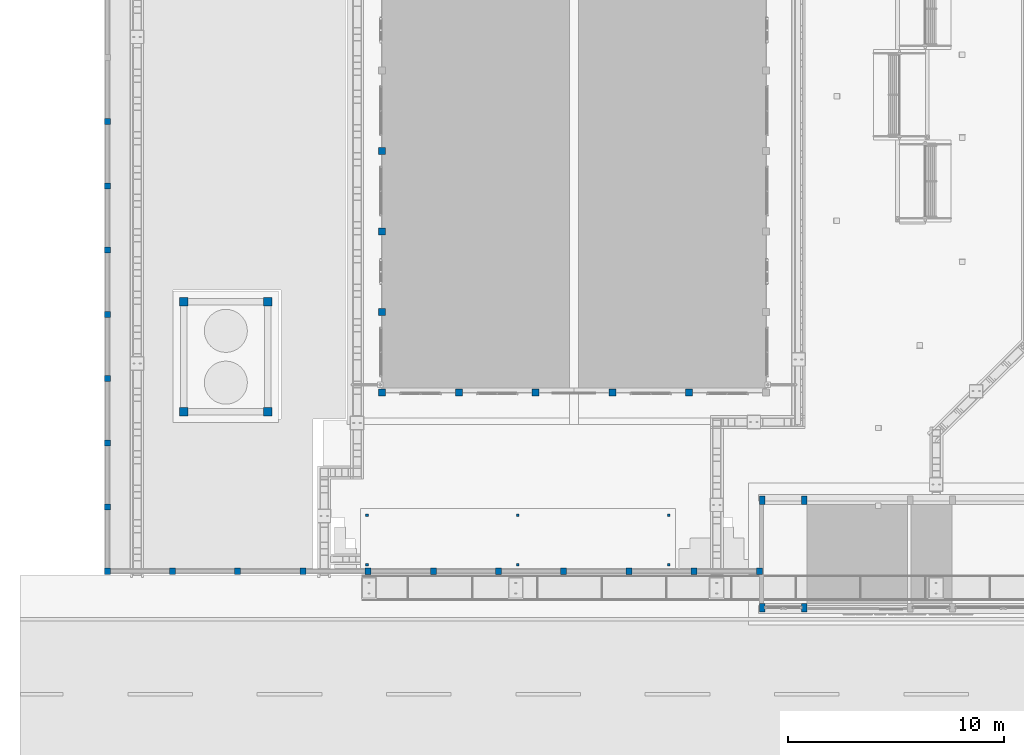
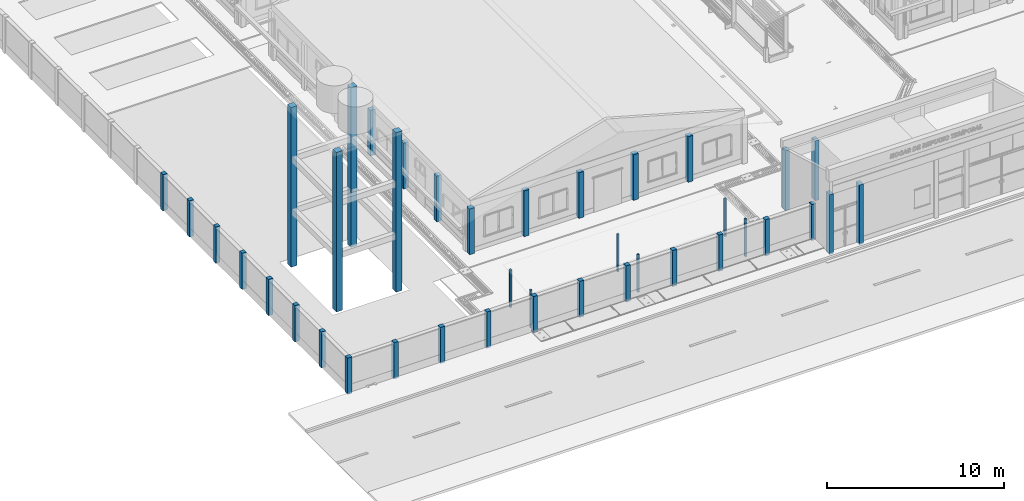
# One storey, part 1 of 151: 42 columns.
"""IFC2X3 building model written with IfcOpenShell, lengths in metres."""

from ifc_helpers import new_model, si_unit, origin, origin_with_axes, place, context, subcontext, project, spatial, faceted_brep, element, save


model = new_model("IFC2X3")

# Units and contexts
model_context = context("Model", 3, precision=1e-05, world=origin_with_axes())
body_context = subcontext(model_context, "Body", "Model", "MODEL_VIEW")
ifc_project = project(units=[si_unit("LENGTHUNIT", "METRE"), si_unit("AREAUNIT", "SQUARE_METRE"), si_unit("VOLUMEUNIT", "CUBIC_METRE"), si_unit("PLANEANGLEUNIT", "RADIAN")], contexts=[model_context])

# Site, building, storey
site_placement = place(None, origin_with_axes())
site = spatial("IfcSite", under=ifc_project, at=site_placement, Name="Predio Los Mangos - Morales, San Martín", CompositionType="ELEMENT")
building_placement = place(site_placement, origin())
building = spatial("IfcBuilding", under=site, at=building_placement, Name="Hogar de Refugio Temporal", CompositionType="ELEMENT")
storey_placement = place(building_placement, origin())
storey = spatial("IfcBuildingStorey", under=building, at=storey_placement, Name="NIVEL 1 (NPT +0.00)", CompositionType="ELEMENT", Elevation=0.0)

# Columns
column_1_placement = place(storey_placement, origin())
element("IfcColumn", 1, at=column_1_placement, inside=storey, Name="E-01_col", ObjectType="Columna", context=body_context, shape_type="Brep", body=[
    faceted_brep([(13.64, 26.14, 0.15), (13.64, 26.46, 0.15), (13.96, 26.46, 0.15), (13.96, 26.14, 0.15), (13.64, 26.14, 3.3), (13.96, 26.14, 3.3), (13.96, 26.46, 3.3), (13.64, 26.46, 3.3)], [[[0, 1, 2, 3]], [[4, 5, 6, 7]], [[0, 3, 5, 4]], [[3, 2, 6, 5]], [[2, 1, 7, 6]], [[1, 0, 4, 7]]]),
])
column_2_placement = place(storey_placement, origin())
element("IfcColumn", 2, at=column_2_placement, inside=storey, Name="E-01_col", ObjectType="Columna", context=body_context, shape_type="Brep", body=[
    faceted_brep([(17.2, 26.14, 0.15), (17.2, 26.46, 0.15), (17.52, 26.46, 0.15), (17.52, 26.14, 0.15), (17.2, 26.14, 3.3), (17.52, 26.14, 3.3), (17.52, 26.46, 3.3), (17.2, 26.46, 3.3)], [[[0, 1, 2, 3]], [[4, 5, 6, 7]], [[0, 3, 5, 4]], [[3, 2, 6, 5]], [[2, 1, 7, 6]], [[1, 0, 4, 7]]]),
])
column_3_placement = place(storey_placement, origin())
element("IfcColumn", 3, at=column_3_placement, inside=storey, Name="E-01_col", ObjectType="Columna", context=body_context, shape_type="Brep", body=[
    faceted_brep([(20.76, 26.14, 0.15), (20.76, 26.46, 0.15), (21.08, 26.46, 0.15), (21.08, 26.14, 0.15), (20.76, 26.14, 3.3), (21.08, 26.14, 3.3), (21.08, 26.46, 3.3), (20.76, 26.46, 3.3)], [[[0, 1, 2, 3]], [[4, 5, 6, 7]], [[0, 3, 5, 4]], [[3, 2, 6, 5]], [[2, 1, 7, 6]], [[1, 0, 4, 7]]]),
])
column_4_placement = place(storey_placement, origin())
element("IfcColumn", 4, at=column_4_placement, inside=storey, Name="E-01_col", ObjectType="Columna", context=body_context, shape_type="Brep", body=[
    faceted_brep([(24.32, 26.14, 0.15), (24.32, 26.46, 0.15), (24.64, 26.46, 0.15), (24.64, 26.14, 0.15), (24.32, 26.14, 3.3), (24.64, 26.14, 3.3), (24.64, 26.46, 3.3), (24.32, 26.46, 3.3)], [[[0, 1, 2, 3]], [[4, 5, 6, 7]], [[0, 3, 5, 4]], [[3, 2, 6, 5]], [[2, 1, 7, 6]], [[1, 0, 4, 7]]]),
])
column_5_placement = place(storey_placement, origin())
element("IfcColumn", 5, at=column_5_placement, inside=storey, Name="E-01_col", ObjectType="Columna", context=body_context, shape_type="Brep", body=[
    faceted_brep([(27.88, 26.14, 0.15), (27.88, 26.46, 0.15), (28.2, 26.46, 0.15), (28.2, 26.14, 0.15), (27.88, 26.14, 3.3), (28.2, 26.14, 3.3), (28.2, 26.46, 3.3), (27.88, 26.46, 3.3)], [[[0, 1, 2, 3]], [[4, 5, 6, 7]], [[0, 3, 5, 4]], [[3, 2, 6, 5]], [[2, 1, 7, 6]], [[1, 0, 4, 7]]]),
])
column_6_placement = place(storey_placement, origin())
element("IfcColumn", 6, at=column_6_placement, inside=storey, Name="E-01_col", ObjectType="Columna", context=body_context, shape_type="Brep", body=[
    faceted_brep([(13.64, 26.14, 0.15), (13.64, 26.46, 0.15), (13.96, 26.46, 0.15), (13.96, 26.14, 0.15), (13.64, 26.14, 3.3), (13.96, 26.14, 3.3), (13.96, 26.46, 3.3), (13.64, 26.46, 3.3)], [[[0, 1, 2, 3]], [[4, 5, 6, 7]], [[0, 3, 5, 4]], [[3, 2, 6, 5]], [[2, 1, 7, 6]], [[1, 0, 4, 7]]]),
])
column_7_placement = place(storey_placement, origin())
element("IfcColumn", 7, at=column_7_placement, inside=storey, Name="E-01_col", ObjectType="Columna", context=body_context, shape_type="Brep", body=[
    faceted_brep([(13.64, 29.8733, 0.15), (13.64, 30.1933, 0.15), (13.96, 30.1933, 0.15), (13.96, 29.8733, 0.15), (13.64, 29.8733, 3.3), (13.96, 29.8733, 3.3), (13.96, 30.1933, 3.3), (13.64, 30.1933, 3.3)], [[[0, 1, 2, 3]], [[4, 5, 6, 7]], [[0, 3, 5, 4]], [[3, 2, 6, 5]], [[2, 1, 7, 6]], [[1, 0, 4, 7]]]),
])
column_8_placement = place(storey_placement, origin())
element("IfcColumn", 8, at=column_8_placement, inside=storey, Name="E-01_col", ObjectType="Columna", context=body_context, shape_type="Brep", body=[
    faceted_brep([(13.64, 33.6067, 0.15), (13.64, 33.9267, 0.15), (13.96, 33.9267, 0.15), (13.96, 33.6067, 0.15), (13.64, 33.6067, 3.3), (13.96, 33.6067, 3.3), (13.96, 33.9267, 3.3), (13.64, 33.9267, 3.3)], [[[0, 1, 2, 3]], [[4, 5, 6, 7]], [[0, 3, 5, 4]], [[3, 2, 6, 5]], [[2, 1, 7, 6]], [[1, 0, 4, 7]]]),
])
column_9_placement = place(storey_placement, origin())
element("IfcColumn", 9, at=column_9_placement, inside=storey, Name="E-01_col", ObjectType="Columna", context=body_context, shape_type="Brep", body=[
    faceted_brep([(13.64, 37.34, 0.15), (13.64, 37.66, 0.15), (13.96, 37.66, 0.15), (13.96, 37.34, 0.15), (13.64, 37.34, 3.3), (13.96, 37.34, 3.3), (13.96, 37.66, 3.3), (13.64, 37.66, 3.3)], [[[0, 1, 2, 3]], [[4, 5, 6, 7]], [[0, 3, 5, 4]], [[3, 2, 6, 5]], [[2, 1, 7, 6]], [[1, 0, 4, 7]]]),
])
column_10_placement = place(storey_placement, origin())
element("IfcColumn", 10, at=column_10_placement, inside=storey, Name="oe01_col", ObjectType="Columna", context=body_context, shape_type="Brep", body=[
    faceted_brep([(31.3105, 16.1, 0.05), (31.3105, 16.5, 0.05), (31.5705, 16.5, 0.05), (31.5705, 16.1, 0.05), (31.3105, 16.1, 4.18), (31.5705, 16.1, 4.18), (31.5705, 16.5, 4.18), (31.3105, 16.5, 4.18)], [[[0, 1, 2, 3]], [[4, 5, 6, 7]], [[0, 3, 5, 4]], [[3, 2, 6, 5]], [[2, 1, 7, 6]], [[1, 0, 4, 7]]]),
])
column_11_placement = place(storey_placement, origin())
element("IfcColumn", 11, at=column_11_placement, inside=storey, Name="oe01_col_post", ObjectType="Columna", context=body_context, shape_type="Brep", body=[
    faceted_brep([(31.3105, 21.1, 0.05), (31.3105, 21.5, 0.05), (31.5705, 21.5, 0.05), (31.5705, 21.1, 0.05), (31.3105, 21.1, 4.18), (31.5705, 21.1, 4.18), (31.5705, 21.5, 4.18), (31.3105, 21.5, 4.18)], [[[0, 1, 2, 3]], [[4, 5, 6, 7]], [[0, 3, 5, 4]], [[3, 2, 6, 5]], [[2, 1, 7, 6]], [[1, 0, 4, 7]]]),
])
column_12_placement = place(storey_placement, origin())
element("IfcColumn", 12, at=column_12_placement, inside=storey, Name="oe01_col", ObjectType="Columna", context=body_context, shape_type="Brep", body=[
    faceted_brep([(33.2576, 16.1, 0.05), (33.2576, 16.5, 0.05), (33.5176, 16.5, 0.05), (33.5176, 16.1, 0.05), (33.2576, 16.1, 4.18), (33.5176, 16.1, 4.18), (33.5176, 16.5, 4.18), (33.2576, 16.5, 4.18)], [[[0, 1, 2, 3]], [[4, 5, 6, 7]], [[0, 3, 5, 4]], [[3, 2, 6, 5]], [[2, 1, 7, 6]], [[1, 0, 4, 7]]]),
])
column_13_placement = place(storey_placement, origin())
element("IfcColumn", 13, at=column_13_placement, inside=storey, Name="oe01_col_post", ObjectType="Columna", context=body_context, shape_type="Brep", body=[
    faceted_brep([(33.2576, 21.1, 0.05), (33.2576, 21.5, 0.05), (33.5176, 21.5, 0.05), (33.5176, 21.1, 0.05), (33.2576, 21.1, 4.18), (33.5176, 21.1, 4.18), (33.5176, 21.5, 4.18), (33.2576, 21.5, 4.18)], [[[0, 1, 2, 3]], [[4, 5, 6, 7]], [[0, 3, 5, 4]], [[3, 2, 6, 5]], [[2, 1, 7, 6]], [[1, 0, 4, 7]]]),
])
column_14_placement = place(storey_placement, origin())
element("IfcColumn", 14, at=column_14_placement, inside=storey, Name="poste_motos", ObjectType="Columna", context=body_context, shape_type="Brep", body=[
    faceted_brep([(13.04, 18.24, 0.1), (13.04, 18.36, 0.1), (13.16, 18.36, 0.1), (13.16, 18.24, 0.1), (13.04, 18.24, 2.7), (13.16, 18.24, 2.7), (13.16, 18.36, 2.7), (13.04, 18.36, 2.7)], [[[0, 1, 2, 3]], [[4, 5, 6, 7]], [[0, 3, 5, 4]], [[3, 2, 6, 5]], [[2, 1, 7, 6]], [[1, 0, 4, 7]]]),
])
column_15_placement = place(storey_placement, origin())
element("IfcColumn", 15, at=column_15_placement, inside=storey, Name="poste_motos", ObjectType="Columna", context=body_context, shape_type="Brep", body=[
    faceted_brep([(13.04, 20.54, 0.1), (13.04, 20.66, 0.1), (13.16, 20.66, 0.1), (13.16, 20.54, 0.1), (13.04, 20.54, 2.7), (13.16, 20.54, 2.7), (13.16, 20.66, 2.7), (13.04, 20.66, 2.7)], [[[0, 1, 2, 3]], [[4, 5, 6, 7]], [[0, 3, 5, 4]], [[3, 2, 6, 5]], [[2, 1, 7, 6]], [[1, 0, 4, 7]]]),
])
column_16_placement = place(storey_placement, origin())
element("IfcColumn", 16, at=column_16_placement, inside=storey, Name="poste_motos", ObjectType="Columna", context=body_context, shape_type="Brep", body=[
    faceted_brep([(20.04, 18.24, 0.1), (20.04, 18.36, 0.1), (20.16, 18.36, 0.1), (20.16, 18.24, 0.1), (20.04, 18.24, 2.7), (20.16, 18.24, 2.7), (20.16, 18.36, 2.7), (20.04, 18.36, 2.7)], [[[0, 1, 2, 3]], [[4, 5, 6, 7]], [[0, 3, 5, 4]], [[3, 2, 6, 5]], [[2, 1, 7, 6]], [[1, 0, 4, 7]]]),
])
column_17_placement = place(storey_placement, origin())
element("IfcColumn", 17, at=column_17_placement, inside=storey, Name="poste_motos", ObjectType="Columna", context=body_context, shape_type="Brep", body=[
    faceted_brep([(20.04, 20.54, 0.1), (20.04, 20.66, 0.1), (20.16, 20.66, 0.1), (20.16, 20.54, 0.1), (20.04, 20.54, 2.7), (20.16, 20.54, 2.7), (20.16, 20.66, 2.7), (20.04, 20.66, 2.7)], [[[0, 1, 2, 3]], [[4, 5, 6, 7]], [[0, 3, 5, 4]], [[3, 2, 6, 5]], [[2, 1, 7, 6]], [[1, 0, 4, 7]]]),
])
column_18_placement = place(storey_placement, origin())
element("IfcColumn", 18, at=column_18_placement, inside=storey, Name="poste_motos", ObjectType="Columna", context=body_context, shape_type="Brep", body=[
    faceted_brep([(27.04, 18.24, 0.1), (27.04, 18.36, 0.1), (27.16, 18.36, 0.1), (27.16, 18.24, 0.1), (27.04, 18.24, 2.7), (27.16, 18.24, 2.7), (27.16, 18.36, 2.7), (27.04, 18.36, 2.7)], [[[0, 1, 2, 3]], [[4, 5, 6, 7]], [[0, 3, 5, 4]], [[3, 2, 6, 5]], [[2, 1, 7, 6]], [[1, 0, 4, 7]]]),
])
column_19_placement = place(storey_placement, origin())
element("IfcColumn", 19, at=column_19_placement, inside=storey, Name="poste_motos", ObjectType="Columna", context=body_context, shape_type="Brep", body=[
    faceted_brep([(27.04, 20.54, 0.1), (27.04, 20.66, 0.1), (27.16, 20.66, 0.1), (27.16, 20.54, 0.1), (27.04, 20.54, 2.7), (27.16, 20.54, 2.7), (27.16, 20.66, 2.7), (27.04, 20.66, 2.7)], [[[0, 1, 2, 3]], [[4, 5, 6, 7]], [[0, 3, 5, 4]], [[3, 2, 6, 5]], [[2, 1, 7, 6]], [[1, 0, 4, 7]]]),
])
column_20_placement = place(storey_placement, origin())
element("IfcColumn", 20, at=column_20_placement, inside=storey, Name="tanque_col", ObjectType="Columna", context=body_context, shape_type="Brep", body=[
    faceted_brep([(4.4, 25.2, 0.0), (4.4, 25.6, 0.0), (4.8, 25.6, 0.0), (4.8, 25.2, 0.0), (4.4, 25.2, 11.0), (4.8, 25.2, 11.0), (4.8, 25.6, 11.0), (4.4, 25.6, 11.0)], [[[0, 1, 2, 3]], [[4, 5, 6, 7]], [[0, 3, 5, 4]], [[3, 2, 6, 5]], [[2, 1, 7, 6]], [[1, 0, 4, 7]]]),
])
column_21_placement = place(storey_placement, origin())
element("IfcColumn", 21, at=column_21_placement, inside=storey, Name="tanque_col", ObjectType="Columna", context=body_context, shape_type="Brep", body=[
    faceted_brep([(4.4, 30.3, 0.0), (4.4, 30.7, 0.0), (4.8, 30.7, 0.0), (4.8, 30.3, 0.0), (4.4, 30.3, 11.0), (4.8, 30.3, 11.0), (4.8, 30.7, 11.0), (4.4, 30.7, 11.0)], [[[0, 1, 2, 3]], [[4, 5, 6, 7]], [[0, 3, 5, 4]], [[3, 2, 6, 5]], [[2, 1, 7, 6]], [[1, 0, 4, 7]]]),
])
column_22_placement = place(storey_placement, origin())
element("IfcColumn", 22, at=column_22_placement, inside=storey, Name="tanque_col", ObjectType="Columna", context=body_context, shape_type="Brep", body=[
    faceted_brep([(8.3, 25.2, 0.0), (8.3, 25.6, 0.0), (8.7, 25.6, 0.0), (8.7, 25.2, 0.0), (8.3, 25.2, 11.0), (8.7, 25.2, 11.0), (8.7, 25.6, 11.0), (8.3, 25.6, 11.0)], [[[0, 1, 2, 3]], [[4, 5, 6, 7]], [[0, 3, 5, 4]], [[3, 2, 6, 5]], [[2, 1, 7, 6]], [[1, 0, 4, 7]]]),
])
column_23_placement = place(storey_placement, origin())
element("IfcColumn", 23, at=column_23_placement, inside=storey, Name="tanque_col", ObjectType="Columna", context=body_context, shape_type="Brep", body=[
    faceted_brep([(8.3, 30.3, 0.0), (8.3, 30.7, 0.0), (8.7, 30.7, 0.0), (8.7, 30.3, 0.0), (8.3, 30.3, 11.0), (8.7, 30.3, 11.0), (8.7, 30.7, 11.0), (8.3, 30.7, 11.0)], [[[0, 1, 2, 3]], [[4, 5, 6, 7]], [[0, 3, 5, 4]], [[3, 2, 6, 5]], [[2, 1, 7, 6]], [[1, 0, 4, 7]]]),
])
column_24_placement = place(storey_placement, origin())
element("IfcColumn", 24, at=column_24_placement, inside=storey, Name="columna_cerco", ObjectType="Columna", context=body_context, shape_type="Brep", body=[
    faceted_brep([(0.91, 17.86, 0.0), (0.91, 18.14, 0.0), (1.19, 18.14, 0.0), (1.19, 17.86, 0.0), (0.91, 17.86, 2.5), (1.19, 17.86, 2.5), (1.19, 18.14, 2.5), (0.91, 18.14, 2.5)], [[[0, 1, 2, 3]], [[4, 5, 6, 7]], [[0, 3, 5, 4]], [[3, 2, 6, 5]], [[2, 1, 7, 6]], [[1, 0, 4, 7]]]),
])
column_25_placement = place(storey_placement, origin())
element("IfcColumn", 25, at=column_25_placement, inside=storey, Name="columna_cerco", ObjectType="Columna", context=body_context, shape_type="Brep", body=[
    faceted_brep([(3.935, 17.86, 0.0), (3.935, 18.14, 0.0), (4.215, 18.14, 0.0), (4.215, 17.86, 0.0), (3.935, 17.86, 2.5), (4.215, 17.86, 2.5), (4.215, 18.14, 2.5), (3.935, 18.14, 2.5)], [[[0, 1, 2, 3]], [[4, 5, 6, 7]], [[0, 3, 5, 4]], [[3, 2, 6, 5]], [[2, 1, 7, 6]], [[1, 0, 4, 7]]]),
])
column_26_placement = place(storey_placement, origin())
element("IfcColumn", 26, at=column_26_placement, inside=storey, Name="columna_cerco", ObjectType="Columna", context=body_context, shape_type="Brep", body=[
    faceted_brep([(6.96, 17.86, 0.0), (6.96, 18.14, 0.0), (7.24, 18.14, 0.0), (7.24, 17.86, 0.0), (6.96, 17.86, 2.5), (7.24, 17.86, 2.5), (7.24, 18.14, 2.5), (6.96, 18.14, 2.5)], [[[0, 1, 2, 3]], [[4, 5, 6, 7]], [[0, 3, 5, 4]], [[3, 2, 6, 5]], [[2, 1, 7, 6]], [[1, 0, 4, 7]]]),
])
column_27_placement = place(storey_placement, origin())
element("IfcColumn", 27, at=column_27_placement, inside=storey, Name="columna_cerco", ObjectType="Columna", context=body_context, shape_type="Brep", body=[
    faceted_brep([(9.985, 17.86, 0.0), (9.985, 18.14, 0.0), (10.265, 18.14, 0.0), (10.265, 17.86, 0.0), (9.985, 17.86, 2.5), (10.265, 17.86, 2.5), (10.265, 18.14, 2.5), (9.985, 18.14, 2.5)], [[[0, 1, 2, 3]], [[4, 5, 6, 7]], [[0, 3, 5, 4]], [[3, 2, 6, 5]], [[2, 1, 7, 6]], [[1, 0, 4, 7]]]),
])
column_28_placement = place(storey_placement, origin())
element("IfcColumn", 28, at=column_28_placement, inside=storey, Name="columna_cerco", ObjectType="Columna", context=body_context, shape_type="Brep", body=[
    faceted_brep([(13.01, 17.86, 0.0), (13.01, 18.14, 0.0), (13.29, 18.14, 0.0), (13.29, 17.86, 0.0), (13.01, 17.86, 2.5), (13.29, 17.86, 2.5), (13.29, 18.14, 2.5), (13.01, 18.14, 2.5)], [[[0, 1, 2, 3]], [[4, 5, 6, 7]], [[0, 3, 5, 4]], [[3, 2, 6, 5]], [[2, 1, 7, 6]], [[1, 0, 4, 7]]]),
])
column_29_placement = place(storey_placement, origin())
element("IfcColumn", 29, at=column_29_placement, inside=storey, Name="columna_cerco", ObjectType="Columna", context=body_context, shape_type="Brep", body=[
    faceted_brep([(16.035, 17.86, 0.0), (16.035, 18.14, 0.0), (16.315, 18.14, 0.0), (16.315, 17.86, 0.0), (16.035, 17.86, 2.5), (16.315, 17.86, 2.5), (16.315, 18.14, 2.5), (16.035, 18.14, 2.5)], [[[0, 1, 2, 3]], [[4, 5, 6, 7]], [[0, 3, 5, 4]], [[3, 2, 6, 5]], [[2, 1, 7, 6]], [[1, 0, 4, 7]]]),
])
column_30_placement = place(storey_placement, origin())
element("IfcColumn", 30, at=column_30_placement, inside=storey, Name="columna_cerco", ObjectType="Columna", context=body_context, shape_type="Brep", body=[
    faceted_brep([(19.06, 17.86, 0.0), (19.06, 18.14, 0.0), (19.34, 18.14, 0.0), (19.34, 17.86, 0.0), (19.06, 17.86, 2.5), (19.34, 17.86, 2.5), (19.34, 18.14, 2.5), (19.06, 18.14, 2.5)], [[[0, 1, 2, 3]], [[4, 5, 6, 7]], [[0, 3, 5, 4]], [[3, 2, 6, 5]], [[2, 1, 7, 6]], [[1, 0, 4, 7]]]),
])
column_31_placement = place(storey_placement, origin())
element("IfcColumn", 31, at=column_31_placement, inside=storey, Name="columna_cerco", ObjectType="Columna", context=body_context, shape_type="Brep", body=[
    faceted_brep([(22.085, 17.86, 0.0), (22.085, 18.14, 0.0), (22.365, 18.14, 0.0), (22.365, 17.86, 0.0), (22.085, 17.86, 2.5), (22.365, 17.86, 2.5), (22.365, 18.14, 2.5), (22.085, 18.14, 2.5)], [[[0, 1, 2, 3]], [[4, 5, 6, 7]], [[0, 3, 5, 4]], [[3, 2, 6, 5]], [[2, 1, 7, 6]], [[1, 0, 4, 7]]]),
])
column_32_placement = place(storey_placement, origin())
element("IfcColumn", 32, at=column_32_placement, inside=storey, Name="columna_cerco", ObjectType="Columna", context=body_context, shape_type="Brep", body=[
    faceted_brep([(25.11, 17.86, 0.0), (25.11, 18.14, 0.0), (25.39, 18.14, 0.0), (25.39, 17.86, 0.0), (25.11, 17.86, 2.5), (25.39, 17.86, 2.5), (25.39, 18.14, 2.5), (25.11, 18.14, 2.5)], [[[0, 1, 2, 3]], [[4, 5, 6, 7]], [[0, 3, 5, 4]], [[3, 2, 6, 5]], [[2, 1, 7, 6]], [[1, 0, 4, 7]]]),
])
column_33_placement = place(storey_placement, origin())
element("IfcColumn", 33, at=column_33_placement, inside=storey, Name="columna_cerco", ObjectType="Columna", context=body_context, shape_type="Brep", body=[
    faceted_brep([(28.135, 17.86, 0.0), (28.135, 18.14, 0.0), (28.415, 18.14, 0.0), (28.415, 17.86, 0.0), (28.135, 17.86, 2.5), (28.415, 17.86, 2.5), (28.415, 18.14, 2.5), (28.135, 18.14, 2.5)], [[[0, 1, 2, 3]], [[4, 5, 6, 7]], [[0, 3, 5, 4]], [[3, 2, 6, 5]], [[2, 1, 7, 6]], [[1, 0, 4, 7]]]),
])
column_34_placement = place(storey_placement, origin())
element("IfcColumn", 34, at=column_34_placement, inside=storey, Name="columna_cerco", ObjectType="Columna", context=body_context, shape_type="Brep", body=[
    faceted_brep([(31.16, 17.86, 0.0), (31.16, 18.14, 0.0), (31.44, 18.14, 0.0), (31.44, 17.86, 0.0), (31.16, 17.86, 2.5), (31.44, 17.86, 2.5), (31.44, 18.14, 2.5), (31.16, 18.14, 2.5)], [[[0, 1, 2, 3]], [[4, 5, 6, 7]], [[0, 3, 5, 4]], [[3, 2, 6, 5]], [[2, 1, 7, 6]], [[1, 0, 4, 7]]]),
])
column_35_placement = place(storey_placement, origin())
element("IfcColumn", 35, at=column_35_placement, inside=storey, Name="columna_cerco", ObjectType="Columna", context=body_context, shape_type="Brep", body=[
    faceted_brep([(0.91, 38.9945, 0.0), (1.19, 38.9945, 0.0), (1.19, 38.7145, 0.0), (0.91, 38.7145, 0.0), (0.91, 38.9945, 2.5), (0.91, 38.7145, 2.5), (1.19, 38.7145, 2.5), (1.19, 38.9945, 2.5)], [[[0, 1, 2, 3]], [[4, 5, 6, 7]], [[0, 3, 5, 4]], [[3, 2, 6, 5]], [[2, 1, 7, 6]], [[1, 0, 4, 7]]]),
])
column_36_placement = place(storey_placement, origin())
element("IfcColumn", 36, at=column_36_placement, inside=storey, Name="columna_cerco", ObjectType="Columna", context=body_context, shape_type="Brep", body=[
    faceted_brep([(0.91, 36.0153, 0.0), (1.19, 36.0153, 0.0), (1.19, 35.7353, 0.0), (0.91, 35.7353, 0.0), (0.91, 36.0153, 2.5), (0.91, 35.7353, 2.5), (1.19, 35.7353, 2.5), (1.19, 36.0153, 2.5)], [[[0, 1, 2, 3]], [[4, 5, 6, 7]], [[0, 3, 5, 4]], [[3, 2, 6, 5]], [[2, 1, 7, 6]], [[1, 0, 4, 7]]]),
])
column_37_placement = place(storey_placement, origin())
element("IfcColumn", 37, at=column_37_placement, inside=storey, Name="columna_cerco", ObjectType="Columna", context=body_context, shape_type="Brep", body=[
    faceted_brep([(0.91, 33.0361, 0.0), (1.19, 33.0361, 0.0), (1.19, 32.7561, 0.0), (0.91, 32.7561, 0.0), (0.91, 33.0361, 2.5), (0.91, 32.7561, 2.5), (1.19, 32.7561, 2.5), (1.19, 33.0361, 2.5)], [[[0, 1, 2, 3]], [[4, 5, 6, 7]], [[0, 3, 5, 4]], [[3, 2, 6, 5]], [[2, 1, 7, 6]], [[1, 0, 4, 7]]]),
])
column_38_placement = place(storey_placement, origin())
element("IfcColumn", 38, at=column_38_placement, inside=storey, Name="columna_cerco", ObjectType="Columna", context=body_context, shape_type="Brep", body=[
    faceted_brep([(0.91, 30.0568, 0.0), (1.19, 30.0568, 0.0), (1.19, 29.7768, 0.0), (0.91, 29.7768, 0.0), (0.91, 30.0568, 2.5), (0.91, 29.7768, 2.5), (1.19, 29.7768, 2.5), (1.19, 30.0568, 2.5)], [[[0, 1, 2, 3]], [[4, 5, 6, 7]], [[0, 3, 5, 4]], [[3, 2, 6, 5]], [[2, 1, 7, 6]], [[1, 0, 4, 7]]]),
])
column_39_placement = place(storey_placement, origin())
element("IfcColumn", 39, at=column_39_placement, inside=storey, Name="columna_cerco", ObjectType="Columna", context=body_context, shape_type="Brep", body=[
    faceted_brep([(0.91, 27.0776, 0.0), (1.19, 27.0776, 0.0), (1.19, 26.7976, 0.0), (0.91, 26.7976, 0.0), (0.91, 27.0776, 2.5), (0.91, 26.7976, 2.5), (1.19, 26.7976, 2.5), (1.19, 27.0776, 2.5)], [[[0, 1, 2, 3]], [[4, 5, 6, 7]], [[0, 3, 5, 4]], [[3, 2, 6, 5]], [[2, 1, 7, 6]], [[1, 0, 4, 7]]]),
])
column_40_placement = place(storey_placement, origin())
element("IfcColumn", 40, at=column_40_placement, inside=storey, Name="columna_cerco", ObjectType="Columna", context=body_context, shape_type="Brep", body=[
    faceted_brep([(0.91, 24.0984, 0.0), (1.19, 24.0984, 0.0), (1.19, 23.8184, 0.0), (0.91, 23.8184, 0.0), (0.91, 24.0984, 2.5), (0.91, 23.8184, 2.5), (1.19, 23.8184, 2.5), (1.19, 24.0984, 2.5)], [[[0, 1, 2, 3]], [[4, 5, 6, 7]], [[0, 3, 5, 4]], [[3, 2, 6, 5]], [[2, 1, 7, 6]], [[1, 0, 4, 7]]]),
])
column_41_placement = place(storey_placement, origin())
element("IfcColumn", 41, at=column_41_placement, inside=storey, Name="columna_cerco", ObjectType="Columna", context=body_context, shape_type="Brep", body=[
    faceted_brep([(0.91, 21.1192, 0.0), (1.19, 21.1192, 0.0), (1.19, 20.8392, 0.0), (0.91, 20.8392, 0.0), (0.91, 21.1192, 2.5), (0.91, 20.8392, 2.5), (1.19, 20.8392, 2.5), (1.19, 21.1192, 2.5)], [[[0, 1, 2, 3]], [[4, 5, 6, 7]], [[0, 3, 5, 4]], [[3, 2, 6, 5]], [[2, 1, 7, 6]], [[1, 0, 4, 7]]]),
])
column_42_placement = place(storey_placement, origin())
element("IfcColumn", 42, at=column_42_placement, inside=storey, Name="columna_cerco", ObjectType="Columna", context=body_context, shape_type="Brep", body=[
    faceted_brep([(0.91, 18.14, 0.0), (1.19, 18.14, 0.0), (1.19, 17.86, 0.0), (0.91, 17.86, 0.0), (0.91, 18.14, 2.5), (0.91, 17.86, 2.5), (1.19, 17.86, 2.5), (1.19, 18.14, 2.5)], [[[0, 1, 2, 3]], [[4, 5, 6, 7]], [[0, 3, 5, 4]], [[3, 2, 6, 5]], [[2, 1, 7, 6]], [[1, 0, 4, 7]]]),
])

save(model, "model.ifc")
